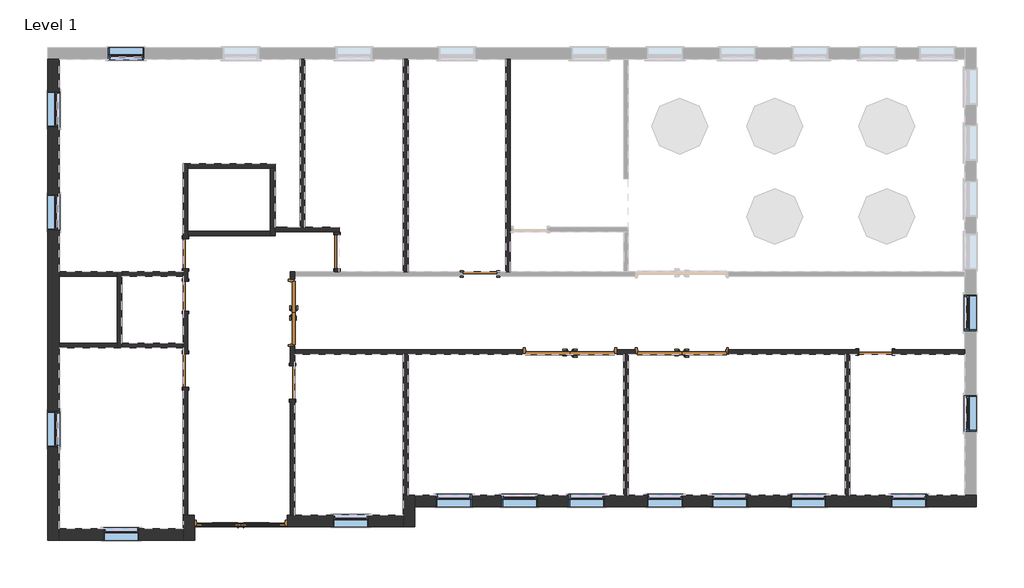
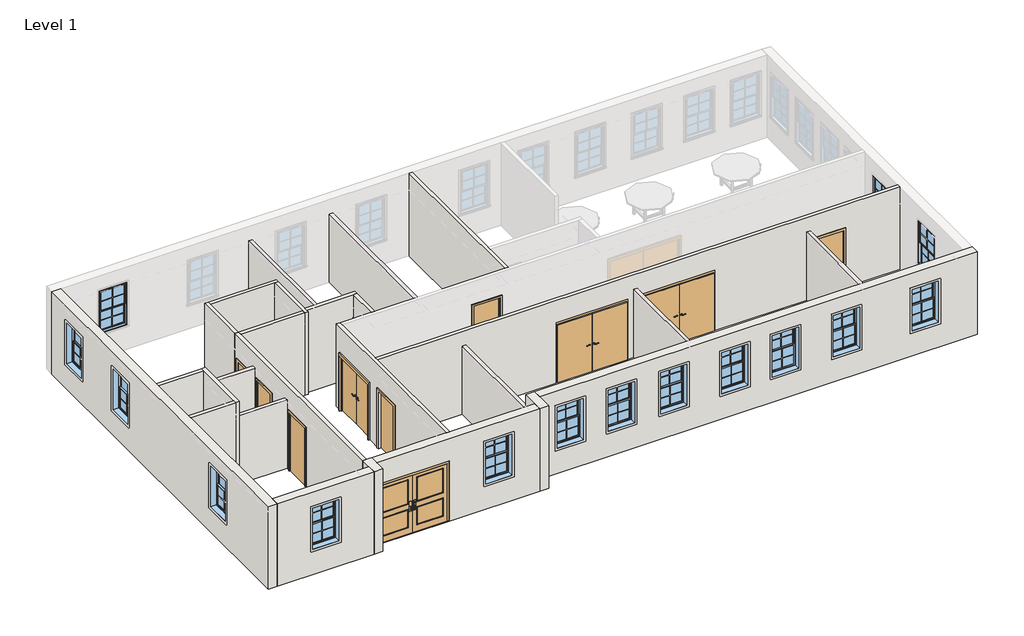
# One storey, part 1 of 3: 26 walls, 15 windows, 11 doors.
"""IFC4 building model written with IfcOpenShell, lengths in millimetres."""

from ifc_helpers import new_model, si_unit, frame, origin, origin_with_axes, place, context, project, spatial, polyline, outline, extrude, faceted_brep, transform, mapped, element, save
from components import door_a749ae1c, door_76e3c7e0, door_a5944cd0, door_2eaef4e6, door_f421410e, door_8a652669, door_d21431a2, door_88503111, door_eb9f8b14, window_35fc641e

model = new_model("IFC4")

# Units and contexts
model_context = context("Model", 3, world=origin())
ifc_project = project(units=[si_unit("LENGTHUNIT", "METRE", prefix="MILLI")], contexts=[model_context])

# Site, building, storey
site = spatial("IfcSite", under=ifc_project)
building = spatial("IfcBuilding", under=site)
storey = spatial("IfcBuildingStorey", under=building, Name="Level 1", Elevation=0.0)

# Doors
placement = place(None, origin())
door_shape = door_a749ae1c(model_context)
door_2_shape = door_76e3c7e0(model_context)
door_3_shape = door_a5944cd0(model_context)
element("IfcDoor", 1, ObjectType="Door-Exterior-Double-Two_Lite : 96\" x 84\"", at=placement, inside=storey, context=model_context, shape_type="MappedRepresentation", body=[
    mapped(door_shape, transform((-7377.4401103, -6250.4012018, 0.0), x_axis=(-1.0, 0.0, 0.0), y_axis=(0.0, -1.0, 0.0), z_axis=(0.0, 0.0, 1.0))),
    mapped(door_2_shape, transform((-7377.4401103, -6250.4012018, 0.0), x_axis=(-1.0, 0.0, 0.0), y_axis=(0.0, -1.0, 0.0), z_axis=(0.0, 0.0, 1.0))),
    mapped(door_3_shape, transform((-7377.4401103, -6250.4012018, 0.0), x_axis=(-1.0, 0.0, 0.0), y_axis=(0.0, -1.0, 0.0), z_axis=(0.0, 0.0, 1.0))),
])
door_4_shape = door_2eaef4e6(model_context)
element("IfcDoor", 2, ObjectType="Door-Passage-Double-Flush : 68\" x 80\"", at=placement, inside=storey, context=model_context, shape_type="MappedRepresentation", body=[
    mapped(door_4_shape, transform((-5975.5692457, -585.4878233, 0.0), x_axis=(0.0, -1.0, 0.0), y_axis=(1.0, 0.0, 0.0), z_axis=(0.0, 0.0, 1.0))),
])
door_5_shape = door_f421410e(model_context)
element("IfcDoor", 3, ObjectType="Door-Passage-Double-Flush : 96\" x 84\"", at=placement, inside=storey, context=model_context, shape_type="MappedRepresentation", body=[
    mapped(door_5_shape, transform((1592.8666807, -1642.0494449, 0.0), x_axis=(-1.0, 0.0, 0.0), y_axis=(0.0, -1.0, 0.0), z_axis=(0.0, 0.0, 1.0))),
])
element("IfcDoor", 4, ObjectType="Door-Passage-Double-Flush : 96\" x 84\"", at=placement, inside=storey, context=model_context, shape_type="MappedRepresentation", body=[
    mapped(door_5_shape, transform((4640.8666807, -1642.0494449, 0.0), x_axis=(-1.0, 0.0, 0.0), y_axis=(0.0, -1.0, 0.0), z_axis=(0.0, 0.0, 1.0))),
])
door_6_shape = door_8a652669(model_context)
element("IfcDoor", 5, ObjectType="Single-Flush : 32\" x 84\"", at=placement, inside=storey, context=model_context, shape_type="MappedRepresentation", body=[
    mapped(door_6_shape, transform((-8879.3234749, -132.1762018, 0.0), x_axis=(0.0, 1.0, 0.0), y_axis=(-1.0, 0.0, 0.0), z_axis=(0.0, 0.0, 1.0))),
])
door_7_shape = door_d21431a2(model_context)
element("IfcDoor", 6, ObjectType="Single-Flush : 32\" x 84\"", at=placement, inside=storey, context=model_context, shape_type="MappedRepresentation", body=[
    mapped(door_7_shape, transform((-8879.3234749, 1030.9048212, 0.0), x_axis=(0.0, -1.0, 0.0), y_axis=(1.0, 0.0, 0.0), z_axis=(0.0, 0.0, 1.0))),
])
door_8_shape = door_88503111(model_context)
element("IfcDoor", 7, ObjectType="Single-Flush : 36\" x 84\"", at=placement, inside=storey, context=model_context, shape_type="MappedRepresentation", body=[
    mapped(door_8_shape, transform((-8879.3234749, -2154.6002622, 0.0), x_axis=(0.0, 1.0, 0.0), y_axis=(-1.0, 0.0, 0.0), z_axis=(0.0, 0.0, 1.0))),
])
element("IfcDoor", 8, ObjectType="Single-Flush : 36\" x 84\"", at=placement, inside=storey, context=model_context, shape_type="MappedRepresentation", body=[
    mapped(door_8_shape, transform((-4754.8838625, 1081.9273163, 0.0), x_axis=(0.0, 1.0, 0.0), y_axis=(-1.0, 0.0, 0.0), z_axis=(0.0, 0.0, 1.0))),
])
element("IfcDoor", 9, ObjectType="Single-Flush : 36\" x 84\"", at=placement, inside=storey, context=model_context, shape_type="MappedRepresentation", body=[
    mapped(door_8_shape, transform((-859.5505103, 477.4237982, 0.0), x_axis=(1.0, 0.0, 0.0), y_axis=(0.0, 1.0, 0.0), z_axis=(0.0, 0.0, 1.0))),
])
element("IfcDoor", 10, ObjectType="Single-Flush : 36\" x 84\"", at=placement, inside=storey, context=model_context, shape_type="MappedRepresentation", body=[
    mapped(door_8_shape, transform((9915.8483002, -1648.3994449, 0.0), x_axis=(-1.0, 0.0, 0.0), y_axis=(0.0, -1.0, 0.0), z_axis=(0.0, 0.0, 1.0))),
])
door_9_shape = door_eb9f8b14(model_context)
element("IfcDoor", 11, ObjectType="Single-Flush : 36\" x 84\"", at=placement, inside=storey, context=model_context, shape_type="MappedRepresentation", body=[
    mapped(door_9_shape, transform((-5969.2192457, -2486.5994449, 0.0), x_axis=(0.0, 1.0, 0.0), y_axis=(-1.0, 0.0, 0.0), z_axis=(0.0, 0.0, 1.0))),
])

# Walls
element("IfcWall", 12, ObjectType="Exterior - EIFS on Mtl. Stud", at=placement, inside=storey, context=model_context, shape_type="Brep", body=[
    faceted_brep([(-2943.0314516, -6412.3262018, 3048.0), (-8630.0859749, -6412.3262018, 3048.0), (-8630.0859749, -6412.3262018, 2235.2), (-6107.4401103, -6412.3262018, 2235.2), (-6107.4401103, -6412.3262018, 0.0), (-2943.0314516, -6412.3262018, 0.0), (-4860.9378487, -6412.3262018, 2489.2), (-3895.7378487, -6412.3262018, 2489.2), (-3895.7378487, -6412.3262018, 914.4), (-4860.9378487, -6412.3262018, 914.4), (-8630.0859749, -6101.1762018, 3048.0), (-6031.1317457, -6101.1762018, 3048.0), (-5907.3067457, -6101.1762018, 3048.0), (-2943.0314516, -6101.1762018, 3048.0), (-2943.0314516, -6101.1762018, 0.0), (-5907.3067457, -6101.1762018, 0.0), (-6031.1317457, -6101.1762018, 0.0), (-6107.4401103, -6101.1762018, 0.0), (-6107.4401103, -6101.1762018, 2235.2), (-8630.0859749, -6101.1762018, 2235.2), (-4860.9378487, -6101.1762018, 2489.2), (-4860.9378487, -6101.1762018, 914.4), (-3895.7378487, -6101.1762018, 914.4), (-3895.7378487, -6101.1762018, 2489.2)], [[[0, 1, 2, 3, 4, 5], [6, 7, 8, 9]], [[10, 11, 12, 13, 14, 15, 16, 17, 18, 19], [20, 21, 22, 23]], [[14, 5, 4, 17, 16, 15]], [[1, 0, 13, 12, 11, 10]], [[0, 5, 14, 13]], [[1, 10, 19, 2]], [[18, 3, 2, 19]], [[3, 18, 17, 4]], [[21, 20, 6, 9]], [[22, 21, 9, 8]], [[23, 22, 8, 7]], [[20, 23, 7, 6]]]),
])
element("IfcWall", 13, ObjectType="Exterior - EIFS on Mtl. Stud", at=placement, inside=storey, context=model_context, shape_type="Brep", body=[
    faceted_brep([(-2631.8814516, -6412.3262018, 0.0), (-2631.8814516, -5861.2832548, 0.0), (-2631.8814516, -5550.1332548, 0.0), (-2631.8814516, -5550.1332548, 3048.0), (-2631.8814516, -5861.2832548, 3048.0), (-2631.8814516, -6412.3262018, 3048.0), (-2943.0314516, -6412.3262018, 0.0), (-2943.0314516, -6412.3262018, 3048.0), (-2943.0314516, -6101.1762018, 3048.0), (-2943.0314516, -5550.1332548, 3048.0), (-2943.0314516, -5550.1332548, 0.0), (-2943.0314516, -6101.1762018, 0.0), (-2819.2064516, -5550.1332548, 0.0)], [[[0, 1, 2, 3, 4, 5]], [[6, 7, 8, 9, 10, 11]], [[2, 1, 0, 6, 11, 10, 12]], [[5, 4, 3, 9, 8, 7]], [[0, 5, 7, 6]], [[2, 12, 10, 9, 3]]]),
])
element("IfcWall", 14, ObjectType="Exterior - EIFS on Mtl. Stud", at=placement, inside=storey, context=model_context, shape_type="Brep", body=[
    faceted_brep([(-2631.8814516, -5861.2832548, 3048.0), (-2631.8814516, -5861.2832548, 0.0), (12666.7034774, -5861.2832548, 0.0), (12666.7034774, -5861.2832548, 3048.0), (10349.8883888, -5861.2832548, 2489.2), (11315.0883888, -5861.2832548, 2489.2), (11315.0883888, -5861.2832548, 914.4), (10349.8883888, -5861.2832548, 914.4), (7604.4483002, -5861.2832548, 2489.2), (8569.6483002, -5861.2832548, 2489.2), (8569.6483002, -5861.2832548, 914.4), (7604.4483002, -5861.2832548, 914.4), (5470.8483002, -5861.2832548, 2489.2), (6436.0483002, -5861.2832548, 2489.2), (6436.0483002, -5861.2832548, 914.4), (5470.8483002, -5861.2832548, 914.4), (3701.0666807, -5861.2832548, 2489.2), (4666.2666807, -5861.2832548, 2489.2), (4666.2666807, -5861.2832548, 914.4), (3701.0666807, -5861.2832548, 914.4), (1567.4666807, -5861.2832548, 2489.2), (2532.6666807, -5861.2832548, 2489.2), (2532.6666807, -5861.2832548, 914.4), (1567.4666807, -5861.2832548, 914.4), (-261.3333193, -5861.2832548, 2489.2), (703.8666807, -5861.2832548, 2489.2), (703.8666807, -5861.2832548, 914.4), (-261.3333193, -5861.2832548, 914.4), (-2050.8564516, -5861.2832548, 2489.2), (-1085.6564516, -5861.2832548, 2489.2), (-1085.6564516, -5861.2832548, 914.4), (-2050.8564516, -5861.2832548, 914.4), (-2631.8814516, -5550.1332548, 0.0), (-2631.8814516, -5550.1332548, 3048.0), (12355.5534774, -5550.1332548, 3048.0), (12666.7034774, -5550.1332548, 3048.0), (12666.7034774, -5550.1332548, 0.0), (12355.5534774, -5550.1332548, 0.0), (9215.7608002, -5550.1332548, 0.0), (9091.9358002, -5550.1332548, 0.0), (3178.7791807, -5550.1332548, 0.0), (3054.9541807, -5550.1332548, 0.0), (10349.8883888, -5550.1332548, 2489.2), (10349.8883888, -5550.1332548, 914.4), (11315.0883888, -5550.1332548, 914.4), (11315.0883888, -5550.1332548, 2489.2), (7604.4483002, -5550.1332548, 2489.2), (7604.4483002, -5550.1332548, 914.4), (8569.6483002, -5550.1332548, 914.4), (8569.6483002, -5550.1332548, 2489.2), (5470.8483002, -5550.1332548, 2489.2), (5470.8483002, -5550.1332548, 914.4), (6436.0483002, -5550.1332548, 914.4), (6436.0483002, -5550.1332548, 2489.2), (3701.0666807, -5550.1332548, 2489.2), (3701.0666807, -5550.1332548, 914.4), (4666.2666807, -5550.1332548, 914.4), (4666.2666807, -5550.1332548, 2489.2), (1567.4666807, -5550.1332548, 2489.2), (1567.4666807, -5550.1332548, 914.4), (2532.6666807, -5550.1332548, 914.4), (2532.6666807, -5550.1332548, 2489.2), (-261.3333193, -5550.1332548, 2489.2), (-261.3333193, -5550.1332548, 914.4), (703.8666807, -5550.1332548, 914.4), (703.8666807, -5550.1332548, 2489.2), (-2050.8564516, -5550.1332548, 2489.2), (-2050.8564516, -5550.1332548, 914.4), (-1085.6564516, -5550.1332548, 914.4), (-1085.6564516, -5550.1332548, 2489.2)], [[[0, 1, 2, 3], [4, 5, 6, 7], [8, 9, 10, 11], [12, 13, 14, 15], [16, 17, 18, 19], [20, 21, 22, 23], [24, 25, 26, 27], [28, 29, 30, 31]], [[32, 33, 34, 35, 36, 37, 38, 39, 40, 41], [42, 43, 44, 45], [46, 47, 48, 49], [50, 51, 52, 53], [54, 55, 56, 57], [58, 59, 60, 61], [62, 63, 64, 65], [66, 67, 68, 69]], [[2, 1, 32, 41, 40, 39, 38, 37, 36]], [[0, 3, 35, 34, 33]], [[3, 2, 36, 35]], [[43, 42, 4, 7]], [[44, 43, 7, 6]], [[45, 44, 6, 5]], [[42, 45, 5, 4]], [[47, 46, 8, 11]], [[48, 47, 11, 10]], [[49, 48, 10, 9]], [[46, 49, 9, 8]], [[51, 50, 12, 15]], [[52, 51, 15, 14]], [[53, 52, 14, 13]], [[50, 53, 13, 12]], [[55, 54, 16, 19]], [[56, 55, 19, 18]], [[57, 56, 18, 17]], [[54, 57, 17, 16]], [[59, 58, 20, 23]], [[60, 59, 23, 22]], [[61, 60, 22, 21]], [[58, 61, 21, 20]], [[63, 62, 24, 27]], [[64, 63, 27, 26]], [[65, 64, 26, 25]], [[62, 65, 25, 24]], [[67, 66, 28, 31]], [[68, 67, 31, 30]], [[69, 68, 30, 29]], [[66, 69, 29, 28]], [[0, 33, 32, 1]]]),
])
element("IfcWall", 15, ObjectType="Exterior - EIFS on Mtl. Stud", at=placement, inside=storey, context=model_context, shape_type="Brep", body=[
    faceted_brep([(-12638.0465226, 6330.7167452, 0.0), (-12638.0465226, -6775.6832548, 0.0), (-12638.0465226, -6775.6832548, 3048.0), (-12638.0465226, 6330.7167452, 3048.0), (-12638.0465226, 5444.8917452, 2489.2), (-12638.0465226, 4479.6917452, 2489.2), (-12638.0465226, 4479.6917452, 914.4), (-12638.0465226, 5444.8917452, 914.4), (-12638.0465226, 2636.4237982, 2489.2), (-12638.0465226, 1671.2237982, 2489.2), (-12638.0465226, 1671.2237982, 914.4), (-12638.0465226, 2636.4237982, 914.4), (-12638.0465226, -3272.2002622, 2489.2), (-12638.0465226, -4237.4002622, 2489.2), (-12638.0465226, -4237.4002622, 914.4), (-12638.0465226, -3272.2002622, 914.4), (-12326.8965226, 6330.7167452, 0.0), (-12326.8965226, 6330.7167452, 3048.0), (-12326.8965226, 539.3362982, 3048.0), (-12326.8965226, 415.5112982, 3048.0), (-12326.8965226, -1406.8877622, 3048.0), (-12326.8965226, -1530.7127622, 3048.0), (-12326.8965226, -6464.5332548, 3048.0), (-12326.8965226, -6775.6832548, 3048.0), (-12326.8965226, -6775.6832548, 0.0), (-12326.8965226, -6464.5332548, 0.0), (-12326.8965226, -1530.7127622, 0.0), (-12326.8965226, -1406.8877622, 0.0), (-12326.8965226, 415.5112982, 0.0), (-12326.8965226, 539.3362982, 0.0), (-12326.8965226, 5444.8917452, 2489.2), (-12326.8965226, 5444.8917452, 914.4), (-12326.8965226, 4479.6917452, 914.4), (-12326.8965226, 4479.6917452, 2489.2), (-12326.8965226, 2636.4237982, 2489.2), (-12326.8965226, 2636.4237982, 914.4), (-12326.8965226, 1671.2237982, 914.4), (-12326.8965226, 1671.2237982, 2489.2), (-12326.8965226, -3272.2002622, 2489.2), (-12326.8965226, -3272.2002622, 914.4), (-12326.8965226, -4237.4002622, 914.4), (-12326.8965226, -4237.4002622, 2489.2)], [[[0, 1, 2, 3], [4, 5, 6, 7], [8, 9, 10, 11], [12, 13, 14, 15]], [[16, 17, 18, 19, 20, 21, 22, 23, 24, 25, 26, 27, 28, 29], [30, 31, 32, 33], [34, 35, 36, 37], [38, 39, 40, 41]], [[1, 0, 16, 29, 28, 27, 26, 25, 24]], [[3, 2, 23, 22, 21, 20, 19, 18, 17]], [[0, 3, 17, 16]], [[2, 1, 24, 23]], [[31, 30, 4, 7]], [[32, 31, 7, 6]], [[33, 32, 6, 5]], [[30, 33, 5, 4]], [[35, 34, 8, 11]], [[36, 35, 11, 10]], [[37, 36, 10, 9]], [[34, 37, 9, 8]], [[39, 38, 12, 15]], [[40, 39, 15, 14]], [[41, 40, 14, 13]], [[38, 41, 13, 12]]]),
])
element("IfcWall", 16, ObjectType="Exterior - EIFS on Mtl. Stud", at=placement, inside=storey, context=model_context, shape_type="SweptSolid", body=[
    extrude(outline(polyline([(0.0, -12326.8965226), (0.0, -8941.2359749), (3048.0, -8941.2359749), (3048.0, -12326.8965226), (0.0, -12326.8965226)]), holes=[polyline([(2489.2, -11116.6662487), (2489.2, -10151.4662487), (914.4, -10151.4662487), (914.4, -11116.6662487), (2489.2, -11116.6662487)])]), frame((0.0, -6775.6832548, 0.0), z_axis=(0.0, 1.0, 0.0), x_axis=(0.0, 0.0, 1.0)), (0.0, 0.0, 1.0), 311.15),
])
element("IfcWall", 17, ObjectType="Exterior - EIFS on Mtl. Stud", at=placement, inside=storey, context=model_context, shape_type="Brep", body=[
    faceted_brep([(-8630.0859749, -6101.1762018, 3048.0), (-8630.0859749, -6412.3262018, 3048.0), (-8630.0859749, -6775.6832548, 3048.0), (-8630.0859749, -6775.6832548, 0.0), (-8630.0859749, -6412.3262018, 0.0), (-8630.0859749, -6412.3262018, 2235.2), (-8630.0859749, -6101.1762018, 2235.2), (-8941.2359749, -6101.1762018, 0.0), (-8941.2359749, -6464.5332548, 0.0), (-8941.2359749, -6775.6832548, 0.0), (-8941.2359749, -6775.6832548, 3048.0), (-8941.2359749, -6464.5332548, 3048.0), (-8941.2359749, -6101.1762018, 3048.0), (-8817.4109749, -6101.1762018, 0.0), (-8647.4401103, -6101.1762018, 0.0), (-8647.4401103, -6412.3262018, 0.0), (-8817.4109749, -6101.1762018, 3048.0), (-8647.4401103, -6101.1762018, 2235.2), (-8647.4401103, -6412.3262018, 2235.2)], [[[0, 1, 2, 3, 4, 5, 6]], [[7, 8, 9, 10, 11, 12]], [[9, 8, 7, 13, 14, 15, 4, 3]], [[2, 1, 0, 16, 12, 11, 10]], [[3, 2, 10, 9]], [[7, 12, 16, 0, 6, 17, 14, 13]], [[15, 18, 5, 4]], [[18, 15, 14, 17]], [[18, 17, 6, 5]]]),
])
element("IfcWall", 18, ObjectType="Interior - 4 7/8\" Partition (1-hr)", at=placement, inside=storey, context=model_context, shape_type="Brep", body=[
    faceted_brep([(-5907.3067457, 539.3362982, 3048.0), (-5907.3067457, 415.5112982, 3048.0), (-5907.3067457, -1586.4869449, 3048.0), (-5907.3067457, -1710.3119449, 3048.0), (-5907.3067457, -6101.1762018, 3048.0), (-5907.3067457, -6101.1762018, 0.0), (-5907.3067457, -2943.7994449, 0.0), (-5907.3067457, -2943.7994449, 2133.6), (-5907.3067457, -2029.3994449, 2133.6), (-5907.3067457, -2029.3994449, 0.0), (-5907.3067457, -1710.3119449, 0.0), (-5907.3067457, -1586.4869449, 0.0), (-5907.3067457, -1499.8878233, 0.0), (-5907.3067457, -1499.8878233, 2133.6), (-5907.3067457, 328.9121767, 2133.6), (-5907.3067457, 328.9121767, 0.0), (-5907.3067457, 415.5112982, 0.0), (-5907.3067457, 539.3362982, 0.0), (-6031.1317457, -6101.1762018, 3048.0), (-6031.1317457, 539.3362982, 3048.0), (-6031.1317457, 539.3362982, 0.0), (-6031.1317457, 328.9121767, 0.0), (-6031.1317457, 328.9121767, 2133.6), (-6031.1317457, -1499.8878233, 2133.6), (-6031.1317457, -1499.8878233, 0.0), (-6031.1317457, -2029.3994449, 0.0), (-6031.1317457, -2029.3994449, 2133.6), (-6031.1317457, -2943.7994449, 2133.6), (-6031.1317457, -2943.7994449, 0.0), (-6031.1317457, -6101.1762018, 0.0)], [[[0, 1, 2, 3, 4, 5, 6, 7, 8, 9, 10, 11, 12, 13, 14, 15, 16, 17]], [[18, 19, 20, 21, 22, 23, 24, 25, 26, 27, 28, 29]], [[5, 29, 28, 6]], [[20, 17, 16, 15, 21]], [[9, 25, 24, 12, 11, 10]], [[4, 3, 2, 1, 0, 19, 18]], [[5, 4, 18, 29]], [[0, 17, 20, 19]], [[26, 25, 9, 8]], [[27, 26, 8, 7]], [[28, 27, 7, 6]], [[23, 13, 12, 24]], [[13, 23, 22, 14]], [[14, 22, 21, 15]]]),
])
element("IfcWall", 19, ObjectType="Interior - 4 7/8\" Partition (1-hr)", at=placement, inside=storey, context=model_context, shape_type="SweptSolid", body=[
    extrude(outline(polyline([(-2943.0314516, -5550.1332548), (-2943.0314516, -1710.3119449), (-2819.2064516, -1710.3119449), (-2819.2064516, -5550.1332548), (-2943.0314516, -5550.1332548)])), origin_with_axes(), (0.0, 0.0, 1.0), 2514.6),
])
element("IfcWall", 20, ObjectType="Interior - 4 7/8\" Partition (1-hr)", at=placement, inside=storey, context=model_context, shape_type="Brep", body=[
    faceted_brep([(-8817.4109749, 274.2237982, 2133.6), (-8817.4109749, 274.2237982, 0.0), (-8817.4109749, 624.5048212, 0.0), (-8817.4109749, 624.5048212, 2133.6), (-8817.4109749, 1437.3048212, 2133.6), (-8817.4109749, 1437.3048212, 0.0), (-8817.4109749, 1522.4733443, 0.0), (-8817.4109749, 1646.2983443, 0.0), (-8817.4109749, 1646.2983443, 3048.0), (-8817.4109749, 1522.4733443, 3048.0), (-8817.4109749, -6101.1762018, 3048.0), (-8817.4109749, -6101.1762018, 0.0), (-8817.4109749, -2611.8002622, 0.0), (-8817.4109749, -2611.8002622, 2133.6), (-8817.4109749, -1697.4002622, 2133.6), (-8817.4109749, -1697.4002622, 0.0), (-8817.4109749, -538.5762018, 0.0), (-8817.4109749, -538.5762018, 2133.6), (-8941.2359749, 624.5048212, 0.0), (-8941.2359749, 539.3362982, 0.0), (-8941.2359749, 415.5112982, 0.0), (-8941.2359749, 274.2237982, 0.0), (-8941.2359749, 274.2237982, 2133.6), (-8941.2359749, -538.5762018, 2133.6), (-8941.2359749, -538.5762018, 0.0), (-8941.2359749, -1406.8877622, 0.0), (-8941.2359749, -1530.7127622, 0.0), (-8941.2359749, -1697.4002622, 0.0), (-8941.2359749, -1697.4002622, 2133.6), (-8941.2359749, -2611.8002622, 2133.6), (-8941.2359749, -2611.8002622, 0.0), (-8941.2359749, -6101.1762018, 0.0), (-8941.2359749, -6101.1762018, 3048.0), (-8941.2359749, 1646.2983443, 3048.0), (-8941.2359749, 1646.2983443, 0.0), (-8941.2359749, 1437.3048212, 0.0), (-8941.2359749, 1437.3048212, 2133.6), (-8941.2359749, 624.5048212, 2133.6)], [[[0, 1, 2, 3, 4, 5, 6, 7, 8, 9, 10, 11, 12, 13, 14, 15, 16, 17]], [[18, 19, 20, 21, 22, 23, 24, 25, 26, 27, 28, 29, 30, 31, 32, 33, 34, 35, 36, 37]], [[35, 34, 7, 6, 5]], [[12, 11, 31, 30]], [[16, 15, 27, 26, 25, 24]], [[2, 1, 21, 20, 19, 18]], [[10, 9, 8, 33, 32]], [[11, 10, 32, 31]], [[3, 2, 18, 37]], [[4, 3, 37, 36]], [[5, 4, 36, 35]], [[28, 27, 15, 14]], [[29, 28, 14, 13]], [[30, 29, 13, 12]], [[22, 21, 1, 0]], [[23, 22, 0, 17]], [[24, 23, 17, 16]], [[8, 7, 34, 33]]]),
])
element("IfcWall", 21, ObjectType="Interior - 4 7/8\" Partition (1-hr)", at=placement, inside=storey, context=model_context, shape_type="SweptSolid", body=[
    extrude(outline(polyline([(-10618.9849987, 539.3362982), (-8941.2359749, 539.3362982), (-8941.2359749, 415.5112982), (-10618.9849987, 415.5112982), (-10618.9849987, 539.3362982)])), origin_with_axes(), (0.0, 0.0, 1.0), 2514.6),
])
element("IfcWall", 22, ObjectType="Interior - 4 7/8\" Partition (1-hr)", at=placement, inside=storey, context=model_context, shape_type="Brep", body=[
    faceted_brep([(-8817.4109749, 3351.1195684, 0.0), (-6567.8883941, 3351.1195684, 0.0), (-6444.0633941, 3351.1195684, 0.0), (-6444.0633941, 3351.1195684, 3048.0), (-6567.8883941, 3351.1195684, 3048.0), (-8817.4109749, 3351.1195684, 3048.0), (-8817.4109749, 3474.9445684, 0.0), (-8817.4109749, 3474.9445684, 3048.0), (-6444.0633941, 3474.9445684, 3048.0), (-6444.0633941, 3474.9445684, 0.0)], [[[0, 1, 2, 3, 4, 5]], [[6, 7, 8, 9]], [[2, 1, 0, 6, 9]], [[5, 4, 3, 8, 7]], [[0, 5, 7, 6]], [[3, 2, 9, 8]]]),
])
element("IfcWall", 23, ObjectType="Interior - 4 7/8\" Partition (1-hr)", at=placement, inside=storey, context=model_context, shape_type="Brep", body=[
    faceted_brep([(-6567.8883941, 3351.1195684, 0.0), (-6567.8883941, 1646.2983443, 0.0), (-6567.8883941, 1522.4733443, 0.0), (-6567.8883941, 1522.4733443, 3048.0), (-6567.8883941, 1646.2983443, 3048.0), (-6567.8883941, 3351.1195684, 3048.0), (-6444.0633941, 3351.1195684, 0.0), (-6444.0633941, 3351.1195684, 3048.0), (-6444.0633941, 1748.3433345, 3048.0), (-6444.0633941, 1624.5183345, 3048.0), (-6444.0633941, 1522.4733443, 3048.0), (-6444.0633941, 1522.4733443, 0.0), (-6444.0633941, 1624.5183345, 0.0), (-6444.0633941, 1748.3433345, 0.0)], [[[0, 1, 2, 3, 4, 5]], [[6, 7, 8, 9, 10, 11, 12, 13]], [[2, 1, 0, 6, 13, 12, 11]], [[5, 4, 3, 10, 9, 8, 7]], [[0, 5, 7, 6]], [[3, 2, 11, 10]]]),
])
element("IfcWall", 24, ObjectType="Interior - 4 7/8\" Partition (1-hr)", at=placement, inside=storey, context=model_context, shape_type="SweptSolid", body=[
    extrude(outline(polyline([(-8817.4109749, 1646.2983443), (-6567.8883941, 1646.2983443), (-6567.8883941, 1522.4733443), (-8817.4109749, 1522.4733443), (-8817.4109749, 1646.2983443)])), origin_with_axes(), (0.0, 0.0, 1.0), 3048.0),
])
element("IfcWall", 25, ObjectType="Interior - 4 7/8\" Partition (1-hr)", at=placement, inside=storey, context=model_context, shape_type="Brep", body=[
    faceted_brep([(-6444.0633941, 1624.5183345, 0.0), (-4816.7963625, 1624.5183345, 0.0), (-4692.9713625, 1624.5183345, 0.0), (-4692.9713625, 1624.5183345, 3048.0), (-4816.7963625, 1624.5183345, 3048.0), (-6444.0633941, 1624.5183345, 3048.0), (-6444.0633941, 1748.3433345, 0.0), (-6444.0633941, 1748.3433345, 3048.0), (-4692.9713625, 1748.3433345, 3048.0), (-4692.9713625, 1748.3433345, 0.0), (-5637.9079716, 1748.3433345, 0.0), (-5761.7329716, 1748.3433345, 0.0)], [[[0, 1, 2, 3, 4, 5]], [[6, 7, 8, 9, 10, 11]], [[2, 1, 0, 6, 11, 10, 9]], [[5, 4, 3, 8, 7]], [[0, 5, 7, 6]], [[3, 2, 9, 8]]]),
])
element("IfcWall", 26, ObjectType="Interior - 4 7/8\" Partition (1-hr)", at=placement, inside=storey, context=model_context, shape_type="SweptSolid", body=[
    extrude(outline(polyline([(1624.5183345, 0.0), (1539.1273163, 0.0), (1539.1273163, 2133.6), (624.7273163, 2133.6), (624.7273163, 0.0), (539.3362982, 0.0), (539.3362982, 3048.0), (1624.5183345, 3048.0), (1624.5183345, 0.0)])), frame((-4816.7963625, 0.0, 0.0), z_axis=(1.0, 0.0, 0.0), x_axis=(0.0, 1.0, 0.0)), (0.0, 0.0, 1.0), 123.825),
])
element("IfcWall", 27, ObjectType="Interior - 4 7/8\" Partition (1-hr)", at=placement, inside=storey, context=model_context, shape_type="SweptSolid", body=[
    extrude(outline(polyline([(-10618.9849987, -1406.8877622), (-8941.2359749, -1406.8877622), (-8941.2359749, -1530.7127622), (-10618.9849987, -1530.7127622), (-10618.9849987, -1406.8877622)])), origin_with_axes(), (0.0, 0.0, 1.0), 2514.6),
])
element("IfcWall", 28, ObjectType="Interior - 4 7/8\" Partition (1-hr)", at=placement, inside=storey, context=model_context, shape_type="Brep", body=[
    faceted_brep([(12355.5534774, -1710.3119449, 3048.0), (-5907.3067457, -1710.3119449, 3048.0), (-5907.3067457, -1710.3119449, 0.0), (-2943.0314516, -1710.3119449, 0.0), (-2819.2064516, -1710.3119449, 0.0), (322.8666807, -1710.3119449, 0.0), (322.8666807, -1710.3119449, 2235.2), (2862.8666807, -1710.3119449, 2235.2), (2862.8666807, -1710.3119449, 0.0), (3054.9541807, -1710.3119449, 0.0), (3178.7791807, -1710.3119449, 0.0), (3370.8666807, -1710.3119449, 0.0), (3370.8666807, -1710.3119449, 2235.2), (5910.8666807, -1710.3119449, 2235.2), (5910.8666807, -1710.3119449, 0.0), (9091.9358002, -1710.3119449, 0.0), (9215.7608002, -1710.3119449, 0.0), (9458.6483002, -1710.3119449, 0.0), (9458.6483002, -1710.3119449, 2133.6), (10373.0483002, -1710.3119449, 2133.6), (10373.0483002, -1710.3119449, 0.0), (12355.5534774, -1710.3119449, 0.0), (-5907.3067457, -1586.4869449, 3048.0), (12355.5534774, -1586.4869449, 3048.0), (12355.5534774, -1586.4869449, 0.0), (10373.0483002, -1586.4869449, 0.0), (10373.0483002, -1586.4869449, 2133.6), (9458.6483002, -1586.4869449, 2133.6), (9458.6483002, -1586.4869449, 0.0), (5910.8666807, -1586.4869449, 0.0), (5910.8666807, -1586.4869449, 2235.2), (3370.8666807, -1586.4869449, 2235.2), (3370.8666807, -1586.4869449, 0.0), (2862.8666807, -1586.4869449, 0.0), (2862.8666807, -1586.4869449, 2235.2), (322.8666807, -1586.4869449, 2235.2), (322.8666807, -1586.4869449, 0.0), (-5907.3067457, -1586.4869449, 0.0)], [[[0, 1, 2, 3, 4, 5, 6, 7, 8, 9, 10, 11, 12, 13, 14, 15, 16, 17, 18, 19, 20, 21]], [[22, 23, 24, 25, 26, 27, 28, 29, 30, 31, 32, 33, 34, 35, 36, 37]], [[2, 37, 36, 5, 4, 3]], [[24, 21, 20, 25]], [[28, 17, 16, 15, 14, 29]], [[8, 33, 32, 11, 10, 9]], [[1, 0, 23, 22]], [[2, 1, 22, 37]], [[0, 21, 24, 23]], [[18, 17, 28, 27]], [[19, 18, 27, 26]], [[20, 19, 26, 25]], [[35, 6, 5, 36]], [[6, 35, 34, 7]], [[7, 34, 33, 8]], [[31, 12, 11, 32]], [[12, 31, 30, 13]], [[13, 30, 29, 14]]]),
])
element("IfcWall", 29, ObjectType="Interior - 4 7/8\" Partition (1-hr)", at=placement, inside=storey, context=model_context, shape_type="SweptSolid", body=[
    extrude(outline(polyline([(3054.9541807, -5550.1332548), (3054.9541807, -1710.3119449), (3178.7791807, -1710.3119449), (3178.7791807, -5550.1332548), (3054.9541807, -5550.1332548)])), origin_with_axes(), (0.0, 0.0, 1.0), 2514.6),
])
element("IfcWall", 30, ObjectType="Interior - 4 7/8\" Partition (1-hr)", at=placement, inside=storey, context=model_context, shape_type="SweptSolid", body=[
    extrude(outline(polyline([(9091.9358002, -5550.1332548), (9091.9358002, -1710.3119449), (9215.7608002, -1710.3119449), (9215.7608002, -5550.1332548), (9091.9358002, -5550.1332548)])), origin_with_axes(), (0.0, 0.0, 1.0), 2514.6),
])
element("IfcWall", 31, ObjectType="Interior - 4 7/8\" Partition (1-hr)", at=placement, inside=storey, context=model_context, shape_type="Brep", body=[
    faceted_brep([(-159.4630103, 6330.7167452, 0.0), (-159.4630103, 539.3362982, 0.0), (-159.4630103, 539.3362982, 3048.0), (-159.4630103, 6330.7167452, 3048.0), (-35.6380103, 6330.7167452, 0.0), (-35.6380103, 6330.7167452, 3048.0), (-35.6380103, 1748.3433345, 3048.0), (-35.6380103, 1624.5183345, 3048.0), (-35.6380103, 539.3362982, 3048.0), (-35.6380103, 539.3362982, 0.0), (-35.6380103, 1624.5183345, 0.0), (-35.6380103, 1748.3433345, 0.0)], [[[0, 1, 2, 3]], [[4, 5, 6, 7, 8, 9, 10, 11]], [[1, 0, 4, 11, 10, 9]], [[3, 2, 8, 7, 6, 5]], [[0, 3, 5, 4]], [[2, 1, 9, 8]]]),
])
element("IfcWall", 32, ObjectType="Interior - 4 7/8\" Partition (1-hr)", at=placement, inside=storey, context=model_context, shape_type="SweptSolid", body=[
    extrude(outline(polyline([(-5761.7329716, 1748.3433345), (-5761.7329716, 6330.7167452), (-5637.9079716, 6330.7167452), (-5637.9079716, 1748.3433345), (-5761.7329716, 1748.3433345)])), origin_with_axes(), (0.0, 0.0, 1.0), 2514.6),
])
element("IfcWall", 33, ObjectType="Interior - 4 7/8\" Partition (1-hr)", at=placement, inside=storey, context=model_context, shape_type="SweptSolid", body=[
    extrude(outline(polyline([(-2943.0314516, 539.3362982), (-2943.0314516, 6330.7167452), (-2819.2064516, 6330.7167452), (-2819.2064516, 539.3362982), (-2943.0314516, 539.3362982)])), origin_with_axes(), (0.0, 0.0, 1.0), 2514.6),
])
element("IfcWall", 34, ObjectType="Interior - 4 7/8\" Partition (1-hr)", at=placement, inside=storey, context=model_context, shape_type="Brep", body=[
    faceted_brep([(-8817.4109749, 1646.2983443, 0.0), (-8817.4109749, 3351.1195684, 0.0), (-8817.4109749, 3474.9445684, 0.0), (-8817.4109749, 3474.9445684, 3048.0), (-8817.4109749, 3351.1195684, 3048.0), (-8817.4109749, 1646.2983443, 3048.0), (-8941.2359749, 1646.2983443, 0.0), (-8941.2359749, 1646.2983443, 3048.0), (-8941.2359749, 3474.9445684, 3048.0), (-8941.2359749, 3474.9445684, 0.0)], [[[0, 1, 2, 3, 4, 5]], [[6, 7, 8, 9]], [[2, 1, 0, 6, 9]], [[5, 4, 3, 8, 7]], [[3, 2, 9, 8]], [[0, 5, 7, 6]]]),
])
element("IfcWall", 35, ObjectType="Interior - 4 7/8\" Partition (1-hr)", at=placement, inside=storey, context=model_context, shape_type="Brep", body=[
    faceted_brep([(-10618.9849987, -1530.7127622, 3048.0), (-10618.9849987, -1530.7127622, 2514.6), (-10618.9849987, -1530.7127622, 0.0), (-10618.9849987, -1406.8877622, 0.0), (-10618.9849987, 415.5112982, 0.0), (-10618.9849987, 539.3362982, 0.0), (-10618.9849987, 539.3362982, 2514.6), (-10618.9849987, 539.3362982, 3048.0), (-10742.8099987, -1530.7127622, 0.0), (-10742.8099987, -1530.7127622, 3048.0), (-10742.8099987, -1406.8877622, 3048.0), (-10742.8099987, 415.5112982, 3048.0), (-10742.8099987, 539.3362982, 3048.0), (-10742.8099987, 539.3362982, 0.0), (-10742.8099987, 415.5112982, 0.0), (-10742.8099987, -1406.8877622, 0.0)], [[[0, 1, 2, 3, 4, 5, 6, 7]], [[8, 9, 10, 11, 12, 13, 14, 15]], [[5, 4, 3, 2, 8, 15, 14, 13]], [[0, 7, 12, 11, 10, 9]], [[5, 13, 12, 7, 6]], [[0, 9, 8, 2, 1]]]),
])
element("IfcWall", 36, ObjectType="Interior - 4 7/8\" Partition (1-hr)", at=placement, inside=storey, context=model_context, shape_type="SweptSolid", body=[
    extrude(outline(polyline([(-12326.8965226, 539.3362982), (-10742.8099987, 539.3362982), (-10742.8099987, 415.5112982), (-12326.8965226, 415.5112982), (-12326.8965226, 539.3362982)])), origin_with_axes(), (0.0, 0.0, 1.0), 3048.0),
])
element("IfcWall", 37, ObjectType="Interior - 4 7/8\" Partition (1-hr)", at=placement, inside=storey, context=model_context, shape_type="SweptSolid", body=[
    extrude(outline(polyline([(-12326.8965226, -1406.8877622), (-10742.8099987, -1406.8877622), (-10742.8099987, -1530.7127622), (-12326.8965226, -1530.7127622), (-12326.8965226, -1406.8877622)])), origin_with_axes(), (0.0, 0.0, 1.0), 3048.0),
])

# Windows
window_shape = window_35fc641e(model_context)
element("IfcWindow", 38, ObjectType="Window-Double-Hung : 38\" x 62\"", at=placement, inside=storey, context=model_context, shape_type="MappedRepresentation", body=[
    mapped(window_shape, transform((12511.1284774, -585.4878233, 0.0), x_axis=(0.0, 1.0, 0.0), y_axis=(-1.0, 0.0, 0.0), z_axis=(0.0, 0.0, 1.0))),
])
element("IfcWindow", 39, ObjectType="Window-Double-Hung : 38\" x 62\"", at=placement, inside=storey, context=model_context, shape_type="MappedRepresentation", body=[
    mapped(window_shape, transform((12511.1284774, -3324.7994449, 0.0), x_axis=(0.0, 1.0, 0.0), y_axis=(-1.0, 0.0, 0.0), z_axis=(0.0, 0.0, 1.0))),
])
element("IfcWindow", 40, ObjectType="Window-Double-Hung : 38\" x 62\"", at=placement, inside=storey, context=model_context, shape_type="MappedRepresentation", body=[
    mapped(window_shape, transform((10832.4883888, -5705.7082548, 0.0), x_axis=(1.0, 0.0, 0.0), y_axis=(0.0, 1.0, 0.0), z_axis=(0.0, 0.0, 1.0))),
])
element("IfcWindow", 41, ObjectType="Window-Double-Hung : 38\" x 62\"", at=placement, inside=storey, context=model_context, shape_type="MappedRepresentation", body=[
    mapped(window_shape, transform((8087.0483002, -5705.7082548, 0.0), x_axis=(1.0, 0.0, 0.0), y_axis=(0.0, 1.0, 0.0), z_axis=(0.0, 0.0, 1.0))),
])
element("IfcWindow", 42, ObjectType="Window-Double-Hung : 38\" x 62\"", at=placement, inside=storey, context=model_context, shape_type="MappedRepresentation", body=[
    mapped(window_shape, transform((5953.4483002, -5705.7082548, 0.0), x_axis=(1.0, 0.0, 0.0), y_axis=(0.0, 1.0, 0.0), z_axis=(0.0, 0.0, 1.0))),
])
element("IfcWindow", 43, ObjectType="Window-Double-Hung : 38\" x 62\"", at=placement, inside=storey, context=model_context, shape_type="MappedRepresentation", body=[
    mapped(window_shape, transform((4183.6666807, -5705.7082548, 0.0), x_axis=(1.0, 0.0, 0.0), y_axis=(0.0, 1.0, 0.0), z_axis=(0.0, 0.0, 1.0))),
])
element("IfcWindow", 44, ObjectType="Window-Double-Hung : 38\" x 62\"", at=placement, inside=storey, context=model_context, shape_type="MappedRepresentation", body=[
    mapped(window_shape, transform((2050.0666807, -5705.7082548, 0.0), x_axis=(1.0, 0.0, 0.0), y_axis=(0.0, 1.0, 0.0), z_axis=(0.0, 0.0, 1.0))),
])
element("IfcWindow", 45, ObjectType="Window-Double-Hung : 38\" x 62\"", at=placement, inside=storey, context=model_context, shape_type="MappedRepresentation", body=[
    mapped(window_shape, transform((221.2666807, -5705.7082548, 0.0), x_axis=(1.0, 0.0, 0.0), y_axis=(0.0, 1.0, 0.0), z_axis=(0.0, 0.0, 1.0))),
])
element("IfcWindow", 46, ObjectType="Window-Double-Hung : 38\" x 62\"", at=placement, inside=storey, context=model_context, shape_type="MappedRepresentation", body=[
    mapped(window_shape, transform((-1568.2564516, -5705.7082548, 0.0), x_axis=(1.0, 0.0, 0.0), y_axis=(0.0, 1.0, 0.0), z_axis=(0.0, 0.0, 1.0))),
])
element("IfcWindow", 47, ObjectType="Window-Double-Hung : 38\" x 62\"", at=placement, inside=storey, context=model_context, shape_type="MappedRepresentation", body=[
    mapped(window_shape, transform((-4378.3378487, -6256.7512018, 0.0), x_axis=(1.0, 0.0, 0.0), y_axis=(0.0, 1.0, 0.0), z_axis=(0.0, 0.0, 1.0))),
])
element("IfcWindow", 48, ObjectType="Window-Double-Hung : 38\" x 62\"", at=placement, inside=storey, context=model_context, shape_type="MappedRepresentation", body=[
    mapped(window_shape, transform((-10634.0662487, -6620.1082548, 0.0), x_axis=(1.0, 0.0, 0.0), y_axis=(0.0, 1.0, 0.0), z_axis=(0.0, 0.0, 1.0))),
])
element("IfcWindow", 49, ObjectType="Window-Double-Hung : 38\" x 62\"", at=placement, inside=storey, context=model_context, shape_type="MappedRepresentation", body=[
    mapped(window_shape, transform((-10501.2715226, 6486.2917452, 0.0), x_axis=(-1.0, 0.0, 0.0), y_axis=(0.0, -1.0, 0.0), z_axis=(0.0, 0.0, 1.0))),
])
element("IfcWindow", 50, ObjectType="Window-Double-Hung : 38\" x 62\"", at=placement, inside=storey, context=model_context, shape_type="MappedRepresentation", body=[
    mapped(window_shape, transform((-12482.4715226, 4962.2917452, 0.0), x_axis=(0.0, -1.0, 0.0), y_axis=(1.0, 0.0, 0.0), z_axis=(0.0, 0.0, 1.0))),
])
element("IfcWindow", 51, ObjectType="Window-Double-Hung : 38\" x 62\"", at=placement, inside=storey, context=model_context, shape_type="MappedRepresentation", body=[
    mapped(window_shape, transform((-12482.4715226, 2153.8237982, 0.0), x_axis=(0.0, -1.0, 0.0), y_axis=(1.0, 0.0, 0.0), z_axis=(0.0, 0.0, 1.0))),
])
element("IfcWindow", 52, ObjectType="Window-Double-Hung : 38\" x 62\"", at=placement, inside=storey, context=model_context, shape_type="MappedRepresentation", body=[
    mapped(window_shape, transform((-12482.4715226, -3754.8002622, 0.0), x_axis=(0.0, -1.0, 0.0), y_axis=(1.0, 0.0, 0.0), z_axis=(0.0, 0.0, 1.0))),
])

save(model, "model.ifc")
